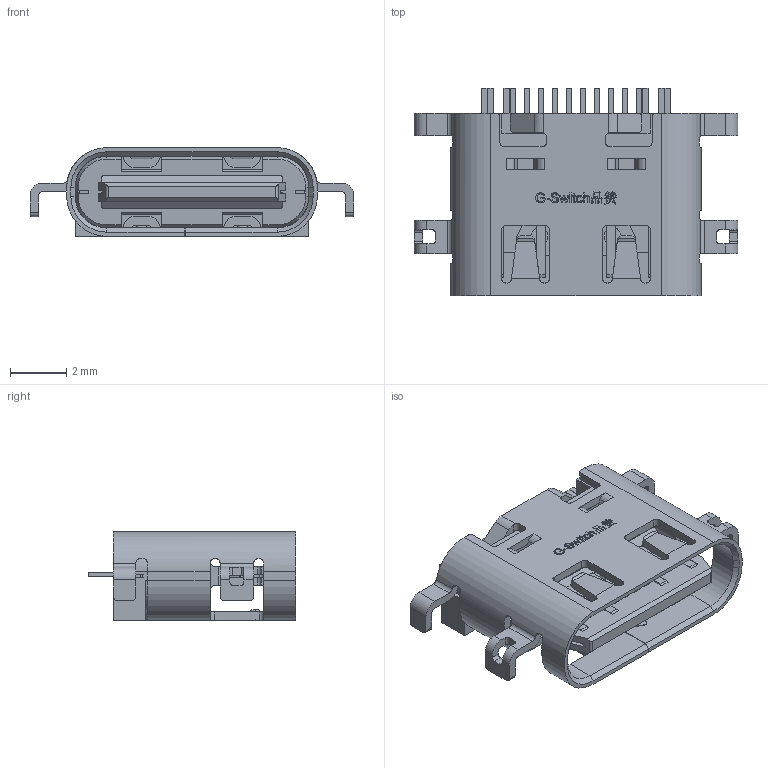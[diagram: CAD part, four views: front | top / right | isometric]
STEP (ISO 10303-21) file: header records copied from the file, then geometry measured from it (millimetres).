
FILE_DESCRIPTION (( 'STEP AP203' ), '1' );
FILE_NAME ('GT-USB-9014C.stp', '2023-06-14T08:26:07', ( '' ), ( '' ), 'SwSTEP 2.0', 'SolidWorks 2023', '' );
FILE_SCHEMA (( 'CONFIG_CONTROL_DESIGN' ));
Length unit declared in the file: millimetre
Products named in the file (6): ASM0001_ASM_ASM.stp; GT-USB-9014C.stp; WK_3.stp; ASM0002_ASM_ASM.stp; GT-USB-9014C; MANIFOLD_SOLID_BREP_19482_1.stp
Assembly tree (5 placements, depth 5):
  GT-USB-9014C
    GT-USB-9014C.stp
      ASM0001_ASM_ASM.stp
        ASM0002_ASM_ASM.stp
          MANIFOLD_SOLID_BREP_19482_1.stp
          WK_3.stp
Bounding box: 11.54 x 7.4 x 3.16 mm (x, y, z)
Volume: 86.3 mm3; surface area: 528.6 mm2
Topology: 2 solids, 2 shells, 1185 faces, 3493 edges, 2292 vertices
Faces by surface type: plane 815, cylinder 276, bspline 82, cone 12
Entity records: 44013 total; most frequent: CARTESIAN_POINT 11805, ORIENTED_EDGE 6986, DIRECTION 6067, EDGE_CURVE 3493, VECTOR 2703, LINE 2703, VERTEX_POINT 2292, AXIS2_PLACEMENT_3D 1682
